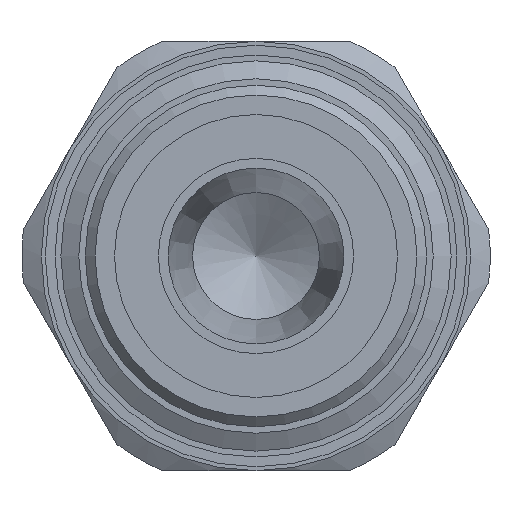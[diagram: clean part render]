
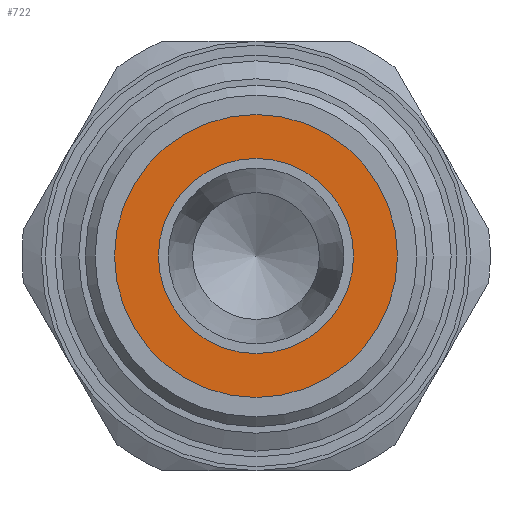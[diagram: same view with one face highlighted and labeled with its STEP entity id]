
A CAD part, left-side view. The second image highlights one B-rep face of the part: STEP entity #722.
In plain terms, the highlighted planar face has unit normal (-1, 0, 0).
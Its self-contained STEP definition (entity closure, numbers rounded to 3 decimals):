
#722 = ADVANCED_FACE( '', ( #1536, #1537 ), #1538, .F. );
#1536 = FACE_OUTER_BOUND( '', #2410, .T. );
#1537 = FACE_BOUND( '', #2411, .T. );
#1538 = PLANE( '', #2412 );
#2410 = EDGE_LOOP( '', ( #3756 ) );
#2411 = EDGE_LOOP( '', ( #3757 ) );
#2412 = AXIS2_PLACEMENT_3D( '', #3758, #3759, #3760 );
#3756 = ORIENTED_EDGE( '', *, *, #4140, .F. );
#3757 = ORIENTED_EDGE( '', *, *, #4563, .F. );
#3758 = CARTESIAN_POINT( '', ( 0.2, 0., 0. ) );
#3759 = DIRECTION( '', ( 1., 0., 0. ) );
#3760 = DIRECTION( '', ( 0., 0., -1. ) );
#4140 = EDGE_CURVE( '', #4687, #4687, #4688, .T. );
#4563 = EDGE_CURVE( '', #5324, #5324, #5325, .F. );
#4687 = VERTEX_POINT( '', #5660 );
#4688 = CIRCLE( '', #5661, 7.25 );
#5324 = VERTEX_POINT( '', #7470 );
#5325 = CIRCLE( '', #7471, 5. );
#5660 = CARTESIAN_POINT( '', ( 0.2, 0., -7.25 ) );
#5661 = AXIS2_PLACEMENT_3D( '', #7840, #7841, #7842 );
#7470 = CARTESIAN_POINT( '', ( 0.2, 0., -5. ) );
#7471 = AXIS2_PLACEMENT_3D( '', #8364, #8365, #8366 );
#7840 = CARTESIAN_POINT( '', ( 0.2, 0., 0. ) );
#7841 = DIRECTION( '', ( 1., 0., 0. ) );
#7842 = DIRECTION( '', ( 0., 0., -1. ) );
#8364 = CARTESIAN_POINT( '', ( 0.2, 0., 0. ) );
#8365 = DIRECTION( '', ( 1., 0., 0. ) );
#8366 = DIRECTION( '', ( 0., 0., -1. ) );
